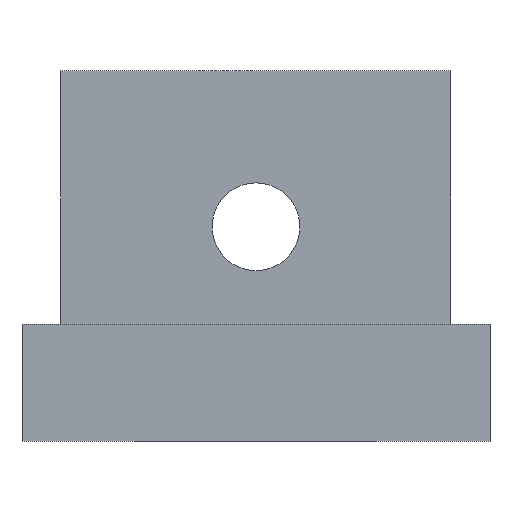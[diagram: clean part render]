
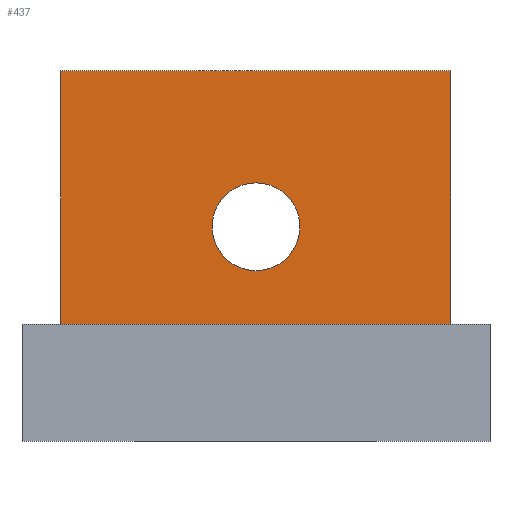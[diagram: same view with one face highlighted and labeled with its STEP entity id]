
A CAD part, front view. The second image highlights one B-rep face of the part: STEP entity #437.
In plain terms, the highlighted planar face has unit normal (0, -1, 0).
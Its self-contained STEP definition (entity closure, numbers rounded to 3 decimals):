
#8 = LINE ( 'NONE', #297, #165 ) ;
#29 = CARTESIAN_POINT ( 'NONE',  ( 10., 0., 19. ) ) ;
#33 = VECTOR ( 'NONE', #615, 1000. ) ;
#39 = PLANE ( 'NONE',  #675 ) ;
#41 = FACE_BOUND ( 'NONE', #308, .T. ) ;
#58 = CARTESIAN_POINT ( 'NONE',  ( 10., 0., 6. ) ) ;
#71 = AXIS2_PLACEMENT_3D ( 'NONE', #396, #341, #646 ) ;
#80 = ORIENTED_EDGE ( 'NONE', *, *, #655, .F. ) ;
#101 = CARTESIAN_POINT ( 'NONE',  ( 10., 0., 19. ) ) ;
#102 = EDGE_CURVE ( 'NONE', #632, #184, #643, .T. ) ;
#105 = CARTESIAN_POINT ( 'NONE',  ( -10., 0., 6. ) ) ;
#142 = CARTESIAN_POINT ( 'NONE',  ( 0., 0., 11. ) ) ;
#148 = EDGE_CURVE ( 'NONE', #489, #684, #462, .T. ) ;
#165 = VECTOR ( 'NONE', #527, 1000. ) ;
#170 = DIRECTION ( 'NONE',  ( 0., 0., -1. ) ) ;
#176 = VECTOR ( 'NONE', #365, 1000. ) ;
#184 = VERTEX_POINT ( 'NONE', #298 ) ;
#188 = LINE ( 'NONE', #427, #176 ) ;
#193 = CARTESIAN_POINT ( 'NONE',  ( -6.2, 0., 6. ) ) ;
#196 = EDGE_CURVE ( 'NONE', #364, #535, #233, .T. ) ;
#233 = LINE ( 'NONE', #58, #386 ) ;
#260 = CARTESIAN_POINT ( 'NONE',  ( 6.2, 0., 6. ) ) ;
#268 = CIRCLE ( 'NONE', #491, 2.25 ) ;
#272 = FACE_OUTER_BOUND ( 'NONE', #422, .T. ) ;
#278 = CARTESIAN_POINT ( 'NONE',  ( 0., 0., 0. ) ) ;
#280 = DIRECTION ( 'NONE',  ( 0., -1., 0. ) ) ;
#293 = VECTOR ( 'NONE', #549, 1000. ) ;
#297 = CARTESIAN_POINT ( 'NONE',  ( -10., 0., 6. ) ) ;
#298 = CARTESIAN_POINT ( 'NONE',  ( -10., 0., 6. ) ) ;
#308 = EDGE_LOOP ( 'NONE', ( #551, #314 ) ) ;
#314 = ORIENTED_EDGE ( 'NONE', *, *, #695, .T. ) ;
#323 = ORIENTED_EDGE ( 'NONE', *, *, #746, .F. ) ;
#339 = VECTOR ( 'NONE', #392, 1000. ) ;
#341 = DIRECTION ( 'NONE',  ( 0., 1., 0. ) ) ;
#344 = EDGE_CURVE ( 'NONE', #184, #654, #188, .T. ) ;
#364 = VERTEX_POINT ( 'NONE', #101 ) ;
#365 = DIRECTION ( 'NONE',  ( 0., 0., 1. ) ) ;
#367 = CARTESIAN_POINT ( 'NONE',  ( -10., 0., 6. ) ) ;
#386 = VECTOR ( 'NONE', #170, 1000. ) ;
#392 = DIRECTION ( 'NONE',  ( -1., 0., 0. ) ) ;
#396 = CARTESIAN_POINT ( 'NONE',  ( 0., 0., 11. ) ) ;
#417 = CARTESIAN_POINT ( 'NONE',  ( 0., 0., 8.75 ) ) ;
#422 = EDGE_LOOP ( 'NONE', ( #547, #554, #323, #545, #619, #80 ) ) ;
#427 = CARTESIAN_POINT ( 'NONE',  ( -10., 0., 19. ) ) ;
#437 = ADVANCED_FACE ( 'NONE', ( #272, #41 ), #39, .T. ) ;
#462 = CIRCLE ( 'NONE', #71, 2.25 ) ;
#488 = CARTESIAN_POINT ( 'NONE',  ( 0., 0., 13.25 ) ) ;
#489 = VERTEX_POINT ( 'NONE', #417 ) ;
#491 = AXIS2_PLACEMENT_3D ( 'NONE', #142, #606, #679 ) ;
#496 = LINE ( 'NONE', #29, #33 ) ;
#527 = DIRECTION ( 'NONE',  ( -1., 0., 0. ) ) ;
#533 = CARTESIAN_POINT ( 'NONE',  ( 10., 0., 6. ) ) ;
#535 = VERTEX_POINT ( 'NONE', #533 ) ;
#545 = ORIENTED_EDGE ( 'NONE', *, *, #589, .F. ) ;
#547 = ORIENTED_EDGE ( 'NONE', *, *, #344, .F. ) ;
#549 = DIRECTION ( 'NONE',  ( -1., 0., 0. ) ) ;
#551 = ORIENTED_EDGE ( 'NONE', *, *, #148, .T. ) ;
#554 = ORIENTED_EDGE ( 'NONE', *, *, #102, .F. ) ;
#560 = LINE ( 'NONE', #367, #293 ) ;
#563 = CARTESIAN_POINT ( 'NONE',  ( -10., 0., 19. ) ) ;
#585 = DIRECTION ( 'NONE',  ( 0., 0., -1. ) ) ;
#589 = EDGE_CURVE ( 'NONE', #535, #674, #8, .T. ) ;
#606 = DIRECTION ( 'NONE',  ( 0., 1., 0. ) ) ;
#615 = DIRECTION ( 'NONE',  ( 1., 0., 0. ) ) ;
#619 = ORIENTED_EDGE ( 'NONE', *, *, #196, .F. ) ;
#632 = VERTEX_POINT ( 'NONE', #193 ) ;
#643 = LINE ( 'NONE', #105, #339 ) ;
#646 = DIRECTION ( 'NONE',  ( 0., 0., 1. ) ) ;
#654 = VERTEX_POINT ( 'NONE', #563 ) ;
#655 = EDGE_CURVE ( 'NONE', #654, #364, #496, .T. ) ;
#674 = VERTEX_POINT ( 'NONE', #260 ) ;
#675 = AXIS2_PLACEMENT_3D ( 'NONE', #278, #280, #585 ) ;
#679 = DIRECTION ( 'NONE',  ( 0., 0., 1. ) ) ;
#684 = VERTEX_POINT ( 'NONE', #488 ) ;
#695 = EDGE_CURVE ( 'NONE', #684, #489, #268, .T. ) ;
#746 = EDGE_CURVE ( 'NONE', #674, #632, #560, .T. ) ;
